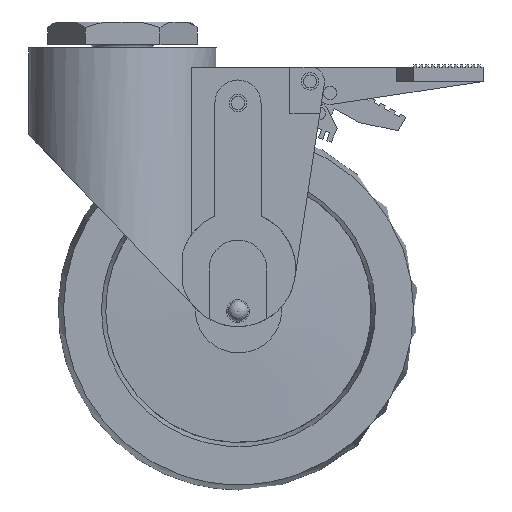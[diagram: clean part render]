
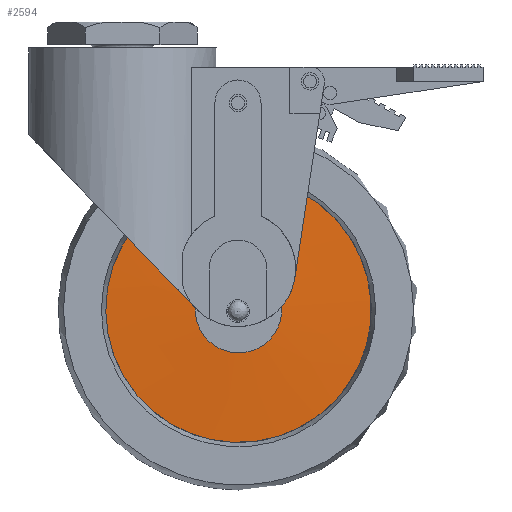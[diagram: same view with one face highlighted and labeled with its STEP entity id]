
A CAD part, front view. The second image highlights one B-rep face of the part: STEP entity #2594.
In plain terms, the highlighted conical face has half-angle 87.783 degrees and reference radius 30.5 mm.
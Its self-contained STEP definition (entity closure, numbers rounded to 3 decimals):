
#2289=CARTESIAN_POINT('',(97.833,41.432,-27.91));
#2290=VERTEX_POINT('',#2289);
#2298=CARTESIAN_POINT('',(97.73,41.432,-27.883));
#2299=VERTEX_POINT('',#2298);
#2300=CARTESIAN_POINT('',(93.95,41.432,-42.399));
#2301=DIRECTION('',(0.0,-1.0,0.0));
#2302=DIRECTION('',(1.,0.0,0.014));
#2303=AXIS2_PLACEMENT_3D('',#2300,#2301,#2302);
#2304=CIRCLE('',#2303,15.);
#2305=EDGE_CURVE('',#2290,#2299,#2304,.T.);
#2377=CARTESIAN_POINT('',(47.954,42.632,-43.046));
#2378=VERTEX_POINT('',#2377);
#2379=CARTESIAN_POINT('',(93.95,42.632,-42.399));
#2380=DIRECTION('',(0.0,-1.0,0.0));
#2381=DIRECTION('',(1.,0.0,0.014));
#2382=AXIS2_PLACEMENT_3D('',#2379,#2380,#2381);
#2383=CIRCLE('',#2382,46.);
#2384=EDGE_CURVE('',#2378,#2378,#2383,.T.);
#2477=CARTESIAN_POINT('',(93.95,42.032,-42.399));
#2478=DIRECTION('',(0.0,1.0,0.0));
#2479=DIRECTION('',(1.,0.0,0.014));
#2480=AXIS2_PLACEMENT_3D('',#2477,#2478,#2479);
#2481=CONICAL_SURFACE('',#2480,30.5,87.783);
#2482=ORIENTED_EDGE('',*,*,#2384,.T.);
#2483=EDGE_LOOP('',(#2482));
#2484=FACE_OUTER_BOUND('',#2483,.T.);
#2485=CARTESIAN_POINT('',(89.763,41.432,-27.995));
#2486=VERTEX_POINT('',#2485);
#2487=CARTESIAN_POINT('',(89.661,41.432,-28.025));
#2488=VERTEX_POINT('',#2487);
#2489=CARTESIAN_POINT('',(93.95,41.432,-42.399));
#2490=DIRECTION('',(0.0,-1.0,0.0));
#2491=DIRECTION('',(1.,0.0,0.014));
#2492=AXIS2_PLACEMENT_3D('',#2489,#2490,#2491);
#2493=CIRCLE('',#2492,15.);
#2494=EDGE_CURVE('',#2486,#2488,#2493,.T.);
#2495=ORIENTED_EDGE('',*,*,#2494,.F.);
#2496=CARTESIAN_POINT('',(89.763,41.432,-27.995));
#2497=CARTESIAN_POINT('',(89.777,41.439,-27.81));
#2498=CARTESIAN_POINT('',(89.804,41.445,-27.625));
#2499=CARTESIAN_POINT('',(89.844,41.451,-27.444));
#2500=CARTESIAN_POINT('',(89.923,41.464,-27.086));
#2501=CARTESIAN_POINT('',(90.051,41.476,-26.739));
#2502=CARTESIAN_POINT('',(90.22,41.486,-26.421));
#2503=CARTESIAN_POINT('',(90.39,41.497,-26.103));
#2504=CARTESIAN_POINT('',(90.594,41.506,-25.818));
#2505=CARTESIAN_POINT('',(90.841,41.514,-25.556));
#2506=CARTESIAN_POINT('',(91.215,41.527,-25.159));
#2507=CARTESIAN_POINT('',(91.684,41.537,-24.831));
#2508=CARTESIAN_POINT('',(92.197,41.543,-24.614));
#2509=CARTESIAN_POINT('',(92.531,41.547,-24.473));
#2510=CARTESIAN_POINT('',(92.884,41.55,-24.379));
#2511=CARTESIAN_POINT('',(93.236,41.551,-24.333));
#2512=CARTESIAN_POINT('',(93.56,41.552,-24.291));
#2513=CARTESIAN_POINT('',(93.879,41.552,-24.289));
#2514=CARTESIAN_POINT('',(94.204,41.551,-24.326));
#2515=CARTESIAN_POINT('',(94.741,41.549,-24.387));
#2516=CARTESIAN_POINT('',(95.28,41.543,-24.563));
#2517=CARTESIAN_POINT('',(95.758,41.534,-24.84));
#2518=CARTESIAN_POINT('',(96.187,41.527,-25.089));
#2519=CARTESIAN_POINT('',(96.567,41.516,-25.419));
#2520=CARTESIAN_POINT('',(96.866,41.504,-25.79));
#2521=CARTESIAN_POINT('',(97.039,41.497,-26.004));
#2522=CARTESIAN_POINT('',(97.19,41.489,-26.237));
#2523=CARTESIAN_POINT('',(97.318,41.481,-26.488));
#2524=CARTESIAN_POINT('',(97.536,41.466,-26.918));
#2525=CARTESIAN_POINT('',(97.679,41.449,-27.397));
#2526=CARTESIAN_POINT('',(97.73,41.432,-27.883));
#2527=B_SPLINE_CURVE_WITH_KNOTS('',3,(#2496,#2497,#2498,#2499,#2500,#2501,#2502,#2503,#2504,#2505,#2506,#2507,#2508,#2509,#2510,#2511,#2512,#2513,#2514,#2515,#2516,#2517,#2518,#2519,#2520,#2521,#2522,#2523,#2524,#2525,#2526),.UNSPECIFIED.,.F.,.U.,(4,3,3,3,3,3,3,3,3,3,4),(1.124,1.178,1.283,1.388,1.548,1.652,1.748,1.906,2.048,2.13,2.271),.UNSPECIFIED.);
#2528=EDGE_CURVE('',#2486,#2299,#2527,.T.);
#2529=ORIENTED_EDGE('',*,*,#2528,.T.);
#2530=ORIENTED_EDGE('',*,*,#2305,.F.);
#2531=CARTESIAN_POINT('',(101.752,41.432,-29.587));
#2532=VERTEX_POINT('',#2531);
#2533=CARTESIAN_POINT('',(93.95,41.432,-42.399));
#2534=DIRECTION('',(0.0,-1.0,0.0));
#2535=DIRECTION('',(1.,0.0,0.014));
#2536=AXIS2_PLACEMENT_3D('',#2533,#2534,#2535);
#2537=CIRCLE('',#2536,15.);
#2538=EDGE_CURVE('',#2532,#2290,#2537,.T.);
#2539=ORIENTED_EDGE('',*,*,#2538,.F.);
#2540=CARTESIAN_POINT('',(103.752,41.432,-31.044));
#2541=VERTEX_POINT('',#2540);
#2542=CARTESIAN_POINT('',(93.95,41.432,-42.399));
#2543=DIRECTION('',(0.0,-1.0,0.0));
#2544=DIRECTION('',(1.,0.0,0.014));
#2545=AXIS2_PLACEMENT_3D('',#2542,#2543,#2544);
#2546=CIRCLE('',#2545,15.);
#2547=EDGE_CURVE('',#2541,#2532,#2546,.T.);
#2548=ORIENTED_EDGE('',*,*,#2547,.F.);
#2549=CARTESIAN_POINT('',(108.913,41.432,-41.344));
#2550=VERTEX_POINT('',#2549);
#2551=CARTESIAN_POINT('',(93.95,41.432,-42.399));
#2552=DIRECTION('',(0.0,-1.0,0.0));
#2553=DIRECTION('',(1.,0.0,0.014));
#2554=AXIS2_PLACEMENT_3D('',#2551,#2552,#2553);
#2555=CIRCLE('',#2554,15.);
#2556=EDGE_CURVE('',#2550,#2541,#2555,.T.);
#2557=ORIENTED_EDGE('',*,*,#2556,.F.);
#2558=CARTESIAN_POINT('',(78.963,41.432,-41.775));
#2559=VERTEX_POINT('',#2558);
#2560=CARTESIAN_POINT('',(93.95,41.432,-42.399));
#2561=DIRECTION('',(0.0,-1.0,0.0));
#2562=DIRECTION('',(1.,0.0,0.014));
#2563=AXIS2_PLACEMENT_3D('',#2560,#2561,#2562);
#2564=CIRCLE('',#2563,15.);
#2565=EDGE_CURVE('',#2559,#2550,#2564,.T.);
#2566=ORIENTED_EDGE('',*,*,#2565,.F.);
#2567=CARTESIAN_POINT('',(83.752,41.432,-31.399));
#2568=VERTEX_POINT('',#2567);
#2569=CARTESIAN_POINT('',(93.95,41.432,-42.399));
#2570=DIRECTION('',(0.0,-1.0,0.0));
#2571=DIRECTION('',(1.,0.0,0.014));
#2572=AXIS2_PLACEMENT_3D('',#2569,#2570,#2571);
#2573=CIRCLE('',#2572,15.);
#2574=EDGE_CURVE('',#2568,#2559,#2573,.T.);
#2575=ORIENTED_EDGE('',*,*,#2574,.F.);
#2576=CARTESIAN_POINT('',(85.752,41.432,-29.837));
#2577=VERTEX_POINT('',#2576);
#2578=CARTESIAN_POINT('',(93.95,41.432,-42.399));
#2579=DIRECTION('',(0.0,-1.0,0.0));
#2580=DIRECTION('',(1.,0.0,0.014));
#2581=AXIS2_PLACEMENT_3D('',#2578,#2579,#2580);
#2582=CIRCLE('',#2581,15.);
#2583=EDGE_CURVE('',#2577,#2568,#2582,.T.);
#2584=ORIENTED_EDGE('',*,*,#2583,.F.);
#2585=CARTESIAN_POINT('',(93.95,41.432,-42.399));
#2586=DIRECTION('',(0.0,-1.0,0.0));
#2587=DIRECTION('',(1.,0.0,0.014));
#2588=AXIS2_PLACEMENT_3D('',#2585,#2586,#2587);
#2589=CIRCLE('',#2588,15.);
#2590=EDGE_CURVE('',#2488,#2577,#2589,.T.);
#2591=ORIENTED_EDGE('',*,*,#2590,.F.);
#2592=EDGE_LOOP('',(#2495,#2529,#2530,#2539,#2548,#2557,#2566,#2575,#2584,#2591));
#2593=FACE_BOUND('',#2592,.T.);
#2594=ADVANCED_FACE('',(#2484,#2593),#2481,.T.);
